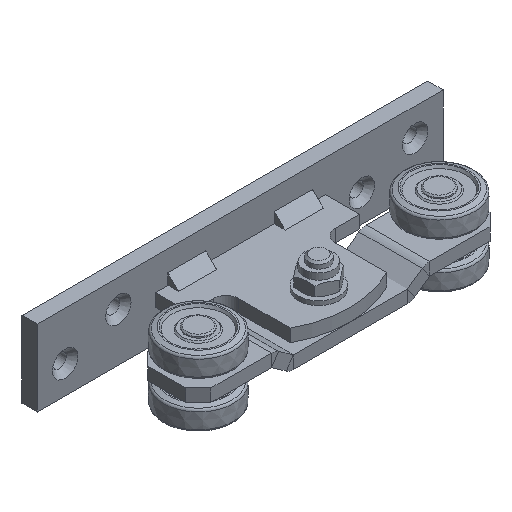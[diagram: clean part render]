
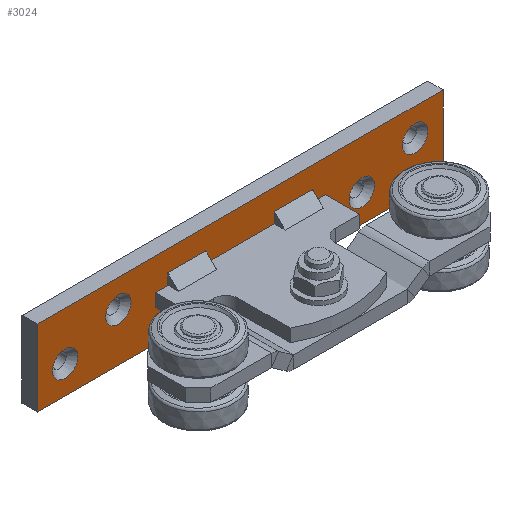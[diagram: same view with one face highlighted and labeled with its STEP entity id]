
A CAD part, isometric view. The second image highlights one B-rep face of the part: STEP entity #3024.
In plain terms, the highlighted planar face has unit normal (0, -1, 0) as drawn and (0, 0, 1) by its records, which use the part's own axes.
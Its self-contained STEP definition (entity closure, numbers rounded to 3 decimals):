
#162=FACE_BOUND('',#676,.T.);
#163=FACE_BOUND('',#677,.T.);
#164=FACE_BOUND('',#678,.T.);
#165=FACE_BOUND('',#679,.T.);
#226=CIRCLE('',#3237,5.);
#229=CIRCLE('',#3242,5.);
#232=CIRCLE('',#3247,5.);
#235=CIRCLE('',#3252,5.);
#464=FACE_OUTER_BOUND('',#675,.T.);
#675=EDGE_LOOP('',(#2215,#2216,#2217,#2218));
#676=EDGE_LOOP('',(#2219));
#677=EDGE_LOOP('',(#2220));
#678=EDGE_LOOP('',(#2221));
#679=EDGE_LOOP('',(#2222));
#948=LINE('',#4648,#1192);
#952=LINE('',#4655,#1196);
#955=LINE('',#4661,#1199);
#957=LINE('',#4664,#1201);
#1192=VECTOR('',#3725,30.);
#1196=VECTOR('',#3731,160.);
#1199=VECTOR('',#3736,30.);
#1201=VECTOR('',#3740,160.);
#1420=VERTEX_POINT('',#4610);
#1423=VERTEX_POINT('',#4618);
#1426=VERTEX_POINT('',#4626);
#1429=VERTEX_POINT('',#4634);
#1434=VERTEX_POINT('',#4645);
#1435=VERTEX_POINT('',#4647);
#1437=VERTEX_POINT('',#4653);
#1439=VERTEX_POINT('',#4659);
#1714=EDGE_CURVE('',#1420,#1420,#226,.T.);
#1717=EDGE_CURVE('',#1423,#1423,#229,.T.);
#1720=EDGE_CURVE('',#1426,#1426,#232,.T.);
#1723=EDGE_CURVE('',#1429,#1429,#235,.T.);
#1728=EDGE_CURVE('',#1434,#1435,#948,.T.);
#1732=EDGE_CURVE('',#1437,#1434,#952,.T.);
#1735=EDGE_CURVE('',#1439,#1437,#955,.T.);
#1737=EDGE_CURVE('',#1435,#1439,#957,.T.);
#2215=ORIENTED_EDGE('',*,*,#1737,.F.);
#2216=ORIENTED_EDGE('',*,*,#1728,.F.);
#2217=ORIENTED_EDGE('',*,*,#1732,.F.);
#2218=ORIENTED_EDGE('',*,*,#1735,.F.);
#2219=ORIENTED_EDGE('',*,*,#1714,.T.);
#2220=ORIENTED_EDGE('',*,*,#1717,.T.);
#2221=ORIENTED_EDGE('',*,*,#1720,.T.);
#2222=ORIENTED_EDGE('',*,*,#1723,.T.);
#2882=PLANE('',#3260);
#3024=ADVANCED_FACE('',(#464,#162,#163,#164,#165),#2882,.T.);
#3237=AXIS2_PLACEMENT_3D('',#4611,#3683,#3684);
#3242=AXIS2_PLACEMENT_3D('',#4619,#3693,#3694);
#3247=AXIS2_PLACEMENT_3D('',#4627,#3703,#3704);
#3252=AXIS2_PLACEMENT_3D('',#4635,#3713,#3714);
#3260=AXIS2_PLACEMENT_3D('',#4665,#3741,#3742);
#3683=DIRECTION('center_axis',(0.,0.,-1.));
#3684=DIRECTION('ref_axis',(1.,0.,0.));
#3693=DIRECTION('center_axis',(0.,0.,-1.));
#3694=DIRECTION('ref_axis',(1.,0.,0.));
#3703=DIRECTION('center_axis',(0.,0.,-1.));
#3704=DIRECTION('ref_axis',(1.,0.,0.));
#3713=DIRECTION('center_axis',(0.,0.,-1.));
#3714=DIRECTION('ref_axis',(1.,0.,0.));
#3725=DIRECTION('',(0.,1.,0.));
#3731=DIRECTION('',(-1.,0.,0.));
#3736=DIRECTION('',(0.,-1.,0.));
#3740=DIRECTION('',(1.,0.,0.));
#3741=DIRECTION('center_axis',(0.,0.,1.));
#3742=DIRECTION('ref_axis',(1.,0.,0.));
#4610=CARTESIAN_POINT('',(74.,4.,0.));
#4611=CARTESIAN_POINT('Origin',(69.,4.,0.));
#4618=CARTESIAN_POINT('',(53.,-4.,0.));
#4619=CARTESIAN_POINT('Origin',(48.,-4.,0.));
#4626=CARTESIAN_POINT('',(-43.,4.,0.));
#4627=CARTESIAN_POINT('Origin',(-48.,4.,0.));
#4634=CARTESIAN_POINT('',(-64.,-4.,0.));
#4635=CARTESIAN_POINT('Origin',(-69.,-4.,0.));
#4645=CARTESIAN_POINT('',(-80.,-15.,0.));
#4647=CARTESIAN_POINT('',(-80.,15.,0.));
#4648=CARTESIAN_POINT('',(-80.,-15.,0.));
#4653=CARTESIAN_POINT('',(80.,-15.,0.));
#4655=CARTESIAN_POINT('',(80.,-15.,0.));
#4659=CARTESIAN_POINT('',(80.,15.,0.));
#4661=CARTESIAN_POINT('',(80.,15.,0.));
#4664=CARTESIAN_POINT('',(-80.,15.,0.));
#4665=CARTESIAN_POINT('Origin',(0.,0.,
0.));
